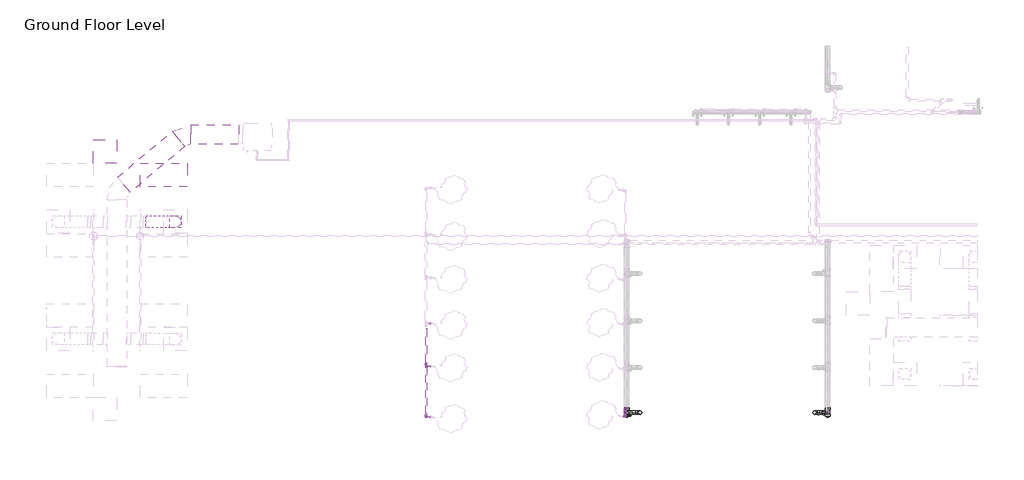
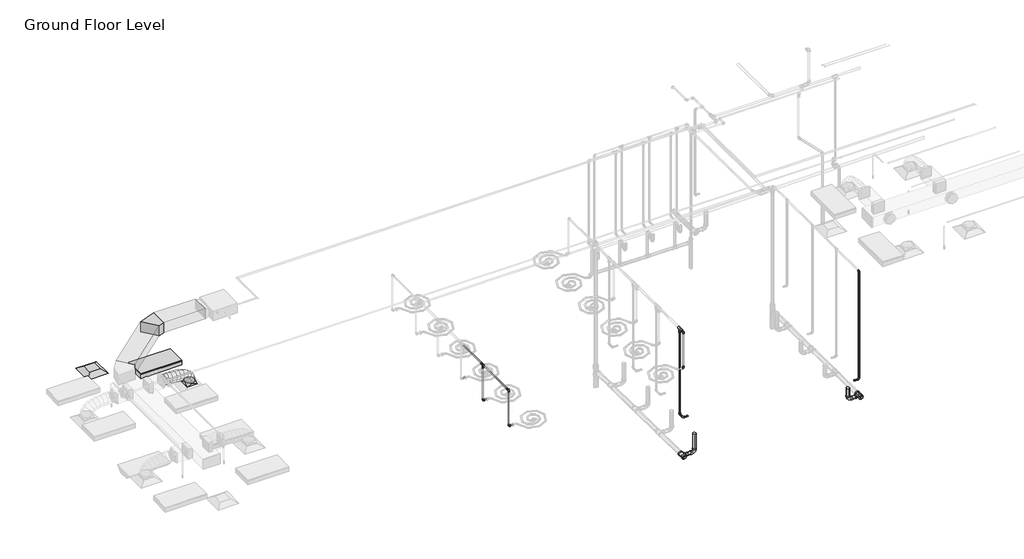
# One storey, part 3 of 74: 22 pipe fittings, 19 pipe segments, 3 duct segments, 2 duct fittings, 1 air terminal, 1 light fixture.
"""IFC4 building model written with IfcOpenShell, lengths in millimetres."""

from ifc_helpers import new_model, si_unit, point, frame, frame_2d, origin, place, context, project, spatial, polyline, circle_curve, ellipse_curve, trimmed, segment, composite_curve, outline, extrude, transform, mapped, element, save
from ifc_brep_helpers import plane_surface, cylinder_surface, advanced_brep
from components import m_return_diffuser_600_x_600_face_300_x_300_connection_ff221211, m_rectangular_elbow_radius_1_w_e33107ab, m_rectangular_to_round_transition_angle_45_degree_641efff0, m_troffer_light_parabolic_rectangular1_0600x1200mm_4_lamp_86473d4a, m_bend_pvc_sch_40_dwv_standard_a4b99d37, m_plug_pvc_sch_40_dwv_standard_6c40de1c, m_tee_reducing_sanitary_pvc_sch_40_dwv_standard_b49161a9, standard_517a5a8d, standard_bbae78af, standard_c7dcb452, standard_636910a4, standard_e5aa6446, standard_c393d86d, standard_77f9104c

model = new_model("IFC4")

# Units and contexts
model_context = context("Model", 3, world=origin())
ifc_project = project(units=[si_unit("LENGTHUNIT", "METRE", prefix="MILLI")], contexts=[model_context])

# Site, building, storey
site = spatial("IfcSite", under=ifc_project)
building = spatial("IfcBuilding", under=site)
storey = spatial("IfcBuildingStorey", under=building, Name="Ground Floor Level", Elevation=900.0)

# Air terminal
placement = place(None, origin())
m_return_diffuser_600_x_600_face_300_x_300_connection_shape = m_return_diffuser_600_x_600_face_300_x_300_connection_ff221211(model_context)
element("IfcAirTerminal", 1, ObjectType="M_Return Diffuser : 600 x 600 Face 300 x 300 Connection", at=placement, inside=storey, context=model_context, shape_type="MappedRepresentation", body=[
    mapped(m_return_diffuser_600_x_600_face_300_x_300_connection_shape, transform((-19137.2327605, -33864.7846466, 3650.0), x_axis=(1.0, 0.0, 0.0), y_axis=(0.0, 1.0, 0.0), z_axis=(0.0, 0.0, 1.0))),
])

# Duct fittings
m_rectangular_elbow_radius_1_w_shape = m_rectangular_elbow_radius_1_w_e33107ab(model_context)
element("IfcDuctFitting", 2, ObjectType="M_Rectangular Elbow - Radius : 1 W", at=placement, inside=storey, context=model_context, shape_type="MappedRepresentation", body=[
    mapped(m_rectangular_elbow_radius_1_w_shape, transform((-17120.666669, -33430.4628495, 4100.0), x_axis=(-0.9999999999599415, 0.0, -8.950815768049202e-06), y_axis=(-9.547984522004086e-11, -0.999999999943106, 1.0667166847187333e-05), z_axis=(-8.950815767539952e-06, 1.0667166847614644e-05, 0.9999999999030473))),
])
m_rectangular_to_round_transition_angle_45_degree_shape = m_rectangular_to_round_transition_angle_45_degree_641efff0(model_context)
element("IfcDuctFitting", 3, ObjectType="M_Rectangular to Round Transition - Angle : 45 Degree", at=placement, inside=storey, context=model_context, shape_type="MappedRepresentation", body=[
    mapped(m_rectangular_to_round_transition_angle_45_degree_shape, transform((-17337.2327605, -35664.7846466, 3751.6), x_axis=(0.0, 0.0, 1.0), y_axis=(-1.0, 0.0, 0.0), z_axis=(0.0, -1.0, 0.0))),
])

# Duct segments
element("IfcDuctSegment", 4, ObjectType="Flex - Round", at=placement, inside=storey, context=model_context, shape_type="AdvancedBrep", body=[
    advanced_brep(
    [(-17187.2327605, -35664.7846466, 3826.6), (-17337.2327605, -35814.7846466, 3826.6), (-17487.2327605, -35664.7846466, 3826.6), (-17337.2327605, -35514.7846466, 3826.6), (-17187.2327605, -35664.7846466, 3883.5809337), (-17337.2327605, -35814.7846466, 3857.9377114), (-17487.2327605, -35664.7846466, 3832.2944892), (-17337.2327605, -35514.7846466, 3857.9377114), (-17220.5107141, -35664.7846466, 3978.0660967), (-17354.2486931, -35814.7846466, 3906.2505728), (-17487.986672, -35664.7846466, 3834.435049), (-17354.2486931, -35514.7846466, 3906.2505728), (-17297.2266742, -35664.7846466, 4079.6206026), (-17401.4325734, -35814.7846466, 3968.7113131), (-17505.6384727, -35664.7846466, 3857.8020236), (-17401.4325734, -35514.7846466, 3968.7113131), (-17404.05447, -35664.7846466, 4150.3237489), (-17472.9885256, -35814.7846466, 4016.0700639), (-17541.9225812, -35664.7846466, 3881.8163788), (-17472.9885256, -35514.7846466, 4016.0700639), (-17519.5599104, -35664.7846466, 4194.3367758), (-17563.1206736, -35814.7846466, 4050.4146682), (-17606.6814368, -35664.7846466, 3906.4925606), (-17563.1206736, -35514.7846466, 4050.4146682), (-17639.4722174, -35664.7846466, 4221.6234841), (-17666.0331414, -35814.7846466, 4073.8329691), (-17692.5940654, -35664.7846466, 3926.0424542), (-17666.0331414, -35514.7846466, 4073.8329691), (-17760.7791508, -35664.7846466, 4237.7170733), (-17775.9300532, -35814.7846466, 4088.4128097), (-17791.0809555, -35664.7846466, 3939.1085462), (-17775.9300532, -35514.7846466, 4088.4128097), (-17879.5102046, -35664.7846466, 4246.085151), (-17887.0155328, -35814.7846466, 4096.242033), (-17894.520861, -35664.7846466, 3946.398915), (-17887.0155328, -35514.7846466, 4096.242033), (-17990.8022112, -35664.7846466, 4249.394754), (-17993.4937043, -35814.7846466, 4099.4084821), (-17996.1851974, -35664.7846466, 3949.4222102), (-17993.4937043, -35514.7846466, 4099.4084821), (-18088.645184, -35664.7846466, 4249.9971571), (-18089.5686918, -35514.7846466, 4100.0), (-18090.4921996, -35664.7846466, 3950.0028429), (-18089.5686918, -35814.7846466, 4100.0)],
    [
        (0, 1, circle_curve(frame((-17337.2327605, -35664.7846466, 3826.6), z_axis=(0.0, 0.0, -1.0), x_axis=(1.0, 0.0, 0.0)), 150.0)),
        (1, 2, circle_curve(frame((-17337.2327605, -35664.7846466, 3826.6), z_axis=(0.0, 0.0, -1.0), x_axis=(1.0, 0.0, 0.0)), 150.0)),
        (2, 3, circle_curve(frame((-17337.2327605, -35664.7846466, 3826.6), z_axis=(0.0, 0.0, -1.0), x_axis=(1.0, 0.0, 0.0)), 150.0)),
        (3, 0, circle_curve(frame((-17337.2327605, -35664.7846466, 3826.6), z_axis=(0.0, 0.0, -1.0), x_axis=(1.0, 0.0, 0.0)), 150.0)),
        (0, 4),
        (4, 5, ellipse_curve(frame((-17337.2327605, -35664.7846466, 3857.9377114), z_axis=(0.16851014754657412, 0.0, -0.9856999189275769), x_axis=(-0.9856999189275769, 0.0, -0.16851014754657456)), 152.176131, 150.0)),
        (5, 1),
        (5, 6, ellipse_curve(frame((-17337.2327605, -35664.7846466, 3857.9377114), z_axis=(0.16851014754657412, 0.0, -0.9856999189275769), x_axis=(-0.9856999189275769, 0.0, -0.16851014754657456)), 152.176131, 150.0)),
        (6, 2),
        (6, 7, ellipse_curve(frame((-17337.2327605, -35664.7846466, 3857.9377114), z_axis=(0.16851014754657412, 0.0, -0.9856999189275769), x_axis=(-0.9856999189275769, 0.0, -0.16851014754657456)), 152.176131, 150.0)),
        (7, 3),
        (7, 4, ellipse_curve(frame((-17337.2327605, -35664.7846466, 3857.9377114), z_axis=(0.16851014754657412, 0.0, -0.9856999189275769), x_axis=(-0.9856999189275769, 0.0, -0.16851014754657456)), 152.176131, 150.0)),
        (4, 8),
        (8, 9, ellipse_curve(frame((-17354.2486931, -35664.7846466, 3906.2505728), z_axis=(0.47309225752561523, 0.0, -0.881012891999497), x_axis=(-0.8810128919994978, 0.0, -0.4730922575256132)), 151.8002519, 150.0)),
        (9, 5),
        (9, 10, ellipse_curve(frame((-17354.2486931, -35664.7846466, 3906.2505728), z_axis=(0.47309225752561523, 0.0, -0.881012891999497), x_axis=(-0.8810128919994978, 0.0, -0.4730922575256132)), 151.8002519, 150.0)),
        (10, 6),
        (10, 11, ellipse_curve(frame((-17354.2486931, -35664.7846466, 3906.2505728), z_axis=(0.47309225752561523, 0.0, -0.881012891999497), x_axis=(-0.8810128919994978, 0.0, -0.4730922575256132)), 151.8002519, 150.0)),
        (11, 7),
        (11, 8, ellipse_curve(frame((-17354.2486931, -35664.7846466, 3906.2505728), z_axis=(0.47309225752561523, 0.0, -0.881012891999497), x_axis=(-0.8810128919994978, 0.0, -0.4730922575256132)), 151.8002519, 150.0)),
        (8, 12),
        (12, 13, ellipse_curve(frame((-17401.4325734, -35664.7846466, 3968.7113131), z_axis=(0.7287877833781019, 0.0, -0.6847396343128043), x_axis=(-0.6847396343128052, 0.0, -0.728787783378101)), 152.1832446, 150.0)),
        (13, 9),
        (13, 14, ellipse_curve(frame((-17401.4325734, -35664.7846466, 3968.7113131), z_axis=(0.7287877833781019, 0.0, -0.6847396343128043), x_axis=(-0.6847396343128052, 0.0, -0.728787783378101)), 152.1832446, 150.0)),
        (14, 10),
        (14, 15, ellipse_curve(frame((-17401.4325734, -35664.7846466, 3968.7113131), z_axis=(0.7287877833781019, 0.0, -0.6847396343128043), x_axis=(-0.6847396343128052, 0.0, -0.728787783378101)), 152.1832446, 150.0)),
        (15, 11),
        (15, 12, ellipse_curve(frame((-17401.4325734, -35664.7846466, 3968.7113131), z_axis=(0.7287877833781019, 0.0, -0.6847396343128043), x_axis=(-0.6847396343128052, 0.0, -0.728787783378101)), 152.1832446, 150.0)),
        (12, 16),
        (16, 17, ellipse_curve(frame((-17472.9885256, -35664.7846466, 4016.0700639), z_axis=(0.8895859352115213, 0.0, -0.4567678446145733), x_axis=(-0.45676784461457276, 0.0, -0.8895859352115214)), 150.91705, 150.0)),
        (17, 13),
        (17, 18, ellipse_curve(frame((-17472.9885256, -35664.7846466, 4016.0700639), z_axis=(0.8895859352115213, 0.0, -0.4567678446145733), x_axis=(-0.45676784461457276, 0.0, -0.8895859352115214)), 150.91705, 150.0)),
        (18, 14),
        (18, 19, ellipse_curve(frame((-17472.9885256, -35664.7846466, 4016.0700639), z_axis=(0.8895859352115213, 0.0, -0.4567678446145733), x_axis=(-0.45676784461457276, 0.0, -0.8895859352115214)), 150.91705, 150.0)),
        (19, 15),
        (19, 16, ellipse_curve(frame((-17472.9885256, -35664.7846466, 4016.0700639), z_axis=(0.8895859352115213, 0.0, -0.4567678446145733), x_axis=(-0.45676784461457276, 0.0, -0.8895859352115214)), 150.91705, 150.0)),
        (16, 20),
        (20, 21, ellipse_curve(frame((-17563.1206736, -35664.7846466, 4050.4146682), z_axis=(0.9571203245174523, 0.0, -0.2896906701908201), x_axis=(-0.28969067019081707, 0.0, -0.9571203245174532)), 150.369921, 150.0)),
        (21, 17),
        (21, 22, ellipse_curve(frame((-17563.1206736, -35664.7846466, 4050.4146682), z_axis=(0.9571203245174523, 0.0, -0.2896906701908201), x_axis=(-0.28969067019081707, 0.0, -0.9571203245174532)), 150.369921, 150.0)),
        (22, 18),
        (22, 23, ellipse_curve(frame((-17563.1206736, -35664.7846466, 4050.4146682), z_axis=(0.9571203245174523, 0.0, -0.2896906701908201), x_axis=(-0.28969067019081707, 0.0, -0.9571203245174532)), 150.369921, 150.0)),
        (23, 19),
        (23, 20, ellipse_curve(frame((-17563.1206736, -35664.7846466, 4050.4146682), z_axis=(0.9571203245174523, 0.0, -0.2896906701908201), x_axis=(-0.28969067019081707, 0.0, -0.9571203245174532)), 150.369921, 150.0)),
        (20, 24),
        (24, 25, ellipse_curve(frame((-17666.0331414, -35664.7846466, 4073.8329691), z_axis=(0.9842313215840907, 0.0, -0.17688613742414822), x_axis=(-0.17688613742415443, 0.0, -0.9842313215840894)), 150.1583131, 150.0)),
        (25, 21),
        (25, 26, ellipse_curve(frame((-17666.0331414, -35664.7846466, 4073.8329691), z_axis=(0.9842313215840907, 0.0, -0.17688613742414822), x_axis=(-0.17688613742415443, 0.0, -0.9842313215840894)), 150.1583131, 150.0)),
        (26, 22),
        (26, 27, ellipse_curve(frame((-17666.0331414, -35664.7846466, 4073.8329691), z_axis=(0.9842313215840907, 0.0, -0.17688613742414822), x_axis=(-0.17688613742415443, 0.0, -0.9842313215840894)), 150.1583131, 150.0)),
        (27, 23),
        (27, 24, ellipse_curve(frame((-17666.0331414, -35664.7846466, 4073.8329691), z_axis=(0.9842313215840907, 0.0, -0.17688613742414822), x_axis=(-0.17688613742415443, 0.0, -0.9842313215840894)), 150.1583131, 150.0)),
        (24, 28),
        (28, 29, ellipse_curve(frame((-17775.9300532, -35664.7846466, 4088.4128097), z_axis=(0.9948906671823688, 0.0, -0.10095821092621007), x_axis=(-0.1009582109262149, -1.267236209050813e-12, -0.9948906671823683)), 150.0710264, 150.0)),
        (29, 25),
        (29, 30, ellipse_curve(frame((-17775.9300532, -35664.7846466, 4088.4128097), z_axis=(0.9948906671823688, 0.0, -0.10095821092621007), x_axis=(-0.1009582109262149, -1.267236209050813e-12, -0.9948906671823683)), 150.0710264, 150.0)),
        (30, 26),
        (30, 31, ellipse_curve(frame((-17775.9300532, -35664.7846466, 4088.4128097), z_axis=(0.9948906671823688, 0.0, -0.10095821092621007), x_axis=(-0.1009582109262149, -1.267236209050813e-12, -0.9948906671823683)), 150.0710264, 150.0)),
        (31, 27),
        (31, 28, ellipse_curve(frame((-17775.9300532, -35664.7846466, 4088.4128097), z_axis=(0.9948906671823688, 0.0, -0.10095821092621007), x_axis=(-0.1009582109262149, -1.267236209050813e-12, -0.9948906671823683)), 150.0710264, 150.0)),
        (28, 32),
        (32, 33, ellipse_curve(frame((-17887.0155328, -35664.7846466, 4096.242033), z_axis=(0.9987479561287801, 0.0, -0.05002519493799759), x_axis=(-0.05002519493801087, 0.0, -0.9987479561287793)), 150.0309634, 150.0)),
        (33, 29),
        (33, 34, ellipse_curve(frame((-17887.0155328, -35664.7846466, 4096.242033), z_axis=(0.9987479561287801, 0.0, -0.05002519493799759), x_axis=(-0.05002519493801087, 0.0, -0.9987479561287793)), 150.0309634, 150.0)),
        (34, 30),
        (34, 35, ellipse_curve(frame((-17887.0155328, -35664.7846466, 4096.242033), z_axis=(0.9987479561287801, 0.0, -0.05002519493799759), x_axis=(-0.05002519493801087, 0.0, -0.9987479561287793)), 150.0309634, 150.0)),
        (35, 31),
        (35, 32, ellipse_curve(frame((-17887.0155328, -35664.7846466, 4096.242033), z_axis=(0.9987479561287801, 0.0, -0.05002519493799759), x_axis=(-0.05002519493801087, 0.0, -0.9987479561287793)), 150.0309634, 150.0)),
        (32, 36),
        (36, 37, ellipse_curve(frame((-17993.4937043, -35664.7846466, 4099.4084821), z_axis=(0.9998390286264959, 0.0, -0.017942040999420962), x_axis=(-0.017942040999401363, 3.6375791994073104e-12, -0.9998390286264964)), 150.0104193, 150.0)),
        (37, 33),
        (37, 38, ellipse_curve(frame((-17993.4937043, -35664.7846466, 4099.4084821), z_axis=(0.9998390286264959, 0.0, -0.017942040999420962), x_axis=(-0.017942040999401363, 3.6375791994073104e-12, -0.9998390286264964)), 150.0104193, 150.0)),
        (38, 34),
        (38, 39, ellipse_curve(frame((-17993.4937043, -35664.7846466, 4099.4084821), z_axis=(0.9998390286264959, 0.0, -0.017942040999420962), x_axis=(-0.017942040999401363, 3.6375791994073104e-12, -0.9998390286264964)), 150.0104193, 150.0)),
        (39, 35),
        (39, 36, ellipse_curve(frame((-17993.4937043, -35664.7846466, 4099.4084821), z_axis=(0.9998390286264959, 0.0, -0.017942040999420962), x_axis=(-0.017942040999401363, 3.6375791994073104e-12, -0.9998390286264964)), 150.0104193, 150.0)),
        (40, 41, circle_curve(frame((-18089.5686918, -35664.7846466, 4100.0), z_axis=(-0.9999810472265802, 0.0, 0.006156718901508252), x_axis=(0.006156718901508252, 0.0, 0.9999810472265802)), 150.0)),
        (41, 42, circle_curve(frame((-18089.5686918, -35664.7846466, 4100.0), z_axis=(-0.9999810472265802, 0.0, 0.006156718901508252), x_axis=(0.006156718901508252, 0.0, 0.9999810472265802)), 150.0)),
        (42, 43, circle_curve(frame((-18089.5686918, -35664.7846466, 4100.0), z_axis=(-0.9999810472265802, 0.0, 0.006156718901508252), x_axis=(0.006156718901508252, 0.0, 0.9999810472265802)), 150.0)),
        (43, 40, circle_curve(frame((-18089.5686918, -35664.7846466, 4100.0), z_axis=(-0.9999810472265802, 0.0, 0.006156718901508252), x_axis=(0.006156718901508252, 0.0, 0.9999810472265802)), 150.0)),
        (36, 40),
        (43, 37),
        (42, 38),
        (41, 39),
    ],
    [
        plane_surface(frame((-17337.2327605, -35814.7846466, 3826.6), z_axis=(0.0, 0.0, -1.0), x_axis=(1.0, 0.0, 0.0))),
        cylinder_surface(frame((-17337.2327605, -35664.7846466, 3826.6), z_axis=(0.0, 0.0, -1.0), x_axis=(1.0, 0.0, 0.0)), 150.0),
        cylinder_surface(frame((-17337.2327605, -35664.7846466, 3857.9377114), z_axis=(0.3322008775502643, 0.0, -0.9432086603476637), x_axis=(0.9432086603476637, 0.0, 0.3322008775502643)), 150.0),
        cylinder_surface(frame((-17354.2486931, -35664.7846466, 3906.2505728), z_axis=(0.6027625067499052, 0.0, -0.7979206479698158), x_axis=(0.7979206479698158, 0.0, 0.6027625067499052)), 150.0),
        cylinder_surface(frame((-17401.4325734, -35664.7846466, 3968.7113131), z_axis=(0.8339024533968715, 0.0, -0.5519118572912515), x_axis=(0.5519118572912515, 0.0, 0.8339024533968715)), 150.0),
        cylinder_surface(frame((-17472.9885256, -35664.7846466, 4016.0700639), z_axis=(0.9344582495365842, 0.0, -0.3560727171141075), x_axis=(0.3560727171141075, 0.0, 0.9344582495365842)), 150.0),
        cylinder_surface(frame((-17563.1206736, -35664.7846466, 4050.4146682), z_axis=(0.9750732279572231, 0.0, -0.22188330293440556), x_axis=(0.22188330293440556, 0.0, 0.9750732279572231)), 150.0),
        cylinder_surface(frame((-17666.0331414, -35664.7846466, 4073.8329691), z_axis=(0.9913140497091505, 0.0, -0.13151598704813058), x_axis=(0.13151598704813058, 0.0, 0.9913140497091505)), 150.0),
        cylinder_surface(frame((-17775.9300532, -35664.7846466, 4088.4128097), z_axis=(0.9975255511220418, 0.0, -0.07030487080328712), x_axis=(0.07030487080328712, 0.0, 0.9975255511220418)), 150.0),
        cylinder_surface(frame((-17887.0155328, -35664.7846466, 4096.242033), z_axis=(0.9995581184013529, 0.0, -0.029724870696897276), x_axis=(0.029724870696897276, 0.0, 0.9995581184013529)), 150.0),
        plane_surface(frame((-18089.5686918, -35814.7846466, 4100.0), z_axis=(-0.9999810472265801, 0.0, 0.00615671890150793), x_axis=(0.00615671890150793, 7.318590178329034e-12, 0.9999810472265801))),
        cylinder_surface(frame((-17993.4937043, -35664.7846466, 4099.4084821), z_axis=(0.9999810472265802, 0.0, -0.006156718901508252), x_axis=(0.006156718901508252, 0.0, 0.9999810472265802)), 150.0),
    ],
    [
        (0, [[1, 2, 3, 4]]),
        (1, [[-1, 5, 6, 7]]),
        (1, [[-2, -7, 8, 9]]),
        (1, [[-3, -9, 10, 11]]),
        (1, [[-4, -11, 12, -5]]),
        (2, [[-6, 13, 14, 15]]),
        (2, [[-8, -15, 16, 17]]),
        (2, [[-10, -17, 18, 19]]),
        (2, [[-12, -19, 20, -13]]),
        (3, [[-14, 21, 22, 23]]),
        (3, [[-16, -23, 24, 25]]),
        (3, [[-18, -25, 26, 27]]),
        (3, [[-20, -27, 28, -21]]),
        (4, [[-22, 29, 30, 31]]),
        (4, [[-24, -31, 32, 33]]),
        (4, [[-26, -33, 34, 35]]),
        (4, [[-28, -35, 36, -29]]),
        (5, [[-30, 37, 38, 39]]),
        (5, [[-32, -39, 40, 41]]),
        (5, [[-34, -41, 42, 43]]),
        (5, [[-36, -43, 44, -37]]),
        (6, [[-38, 45, 46, 47]]),
        (6, [[-40, -47, 48, 49]]),
        (6, [[-42, -49, 50, 51]]),
        (6, [[-44, -51, 52, -45]]),
        (7, [[-46, 53, 54, 55]]),
        (7, [[-48, -55, 56, 57]]),
        (7, [[-50, -57, 58, 59]]),
        (7, [[-52, -59, 60, -53]]),
        (8, [[-54, 61, 62, 63]]),
        (8, [[-56, -63, 64, 65]]),
        (8, [[-58, -65, 66, 67]]),
        (8, [[-60, -67, 68, -61]]),
        (9, [[-62, 69, 70, 71]]),
        (9, [[-64, -71, 72, 73]]),
        (9, [[-66, -73, 74, 75]]),
        (9, [[-68, -75, 76, -69]]),
        (10, [[77, 78, 79, 80]]),
        (11, [[-70, 81, -80, 82]]),
        (11, [[-72, -82, -79, 83]]),
        (11, [[-74, -83, -78, 84]]),
        (11, [[-76, -84, -77, -81]]),
    ],
),
])
element("IfcDuctSegment", 5, ObjectType="Radius Elbows / Taps", at=placement, inside=storey, context=model_context, shape_type="SweptSolid", body=[
    extrude(outline(polyline([(-15712.2265072, -33180.4628495), (-15712.2265072, -33680.4628495), (-16938.6815519, -33680.4628495), (-16938.6815519, -33180.4628495), (-15712.2265072, -33180.4628495)])), frame((0.0, 0.0, 3950.0016289), z_axis=(0.0, 0.0, 1.0), x_axis=(1.0, 0.0, 0.0)), (0.0, 0.0, 1.0), 300.0),
])
element("IfcDuctSegment", 6, ObjectType="Radius Elbows / Taps", at=placement, inside=storey, context=model_context, shape_type="SweptSolid", body=[
    extrude(outline(polyline([(-17420.7722592, -33355.9295172), (-17099.3784543, -33738.9517387), (-18494.7419556, -34909.800738), (-18816.1357605, -34526.7785165), (-17420.7722592, -33355.9295172)])), frame((0.0, 0.0, 3950.0), z_axis=(0.0, 0.0, 1.0), x_axis=(1.0, 0.0, 0.0)), (0.0, 0.0, 1.0), 300.0),
])

# Light fixture
m_troffer_light_parabolic_rectangular1_0600x1200mm_4_lamp_shape = m_troffer_light_parabolic_rectangular1_0600x1200mm_4_lamp_86473d4a(model_context)
element("IfcLightFixture", 7, ObjectType="M_Troffer Light - Parabolic Rectangular1 : 0600x1200mm(4 Lamp) - 277V 2", at=placement, inside=storey, context=model_context, shape_type="MappedRepresentation", body=[
    mapped(m_troffer_light_parabolic_rectangular1_0600x1200mm_4_lamp_shape, transform((-17618.5292589, -34411.6319125, 3650.0), x_axis=(1.0, 0.0, 0.0), y_axis=(0.0, 1.0, 0.0), z_axis=(0.0, 0.0, 1.0))),
])

# Pipe fittings
m_bend_pvc_sch_40_dwv_standard_shape = m_bend_pvc_sch_40_dwv_standard_a4b99d37(model_context)
element("IfcPipeFitting", 8, ObjectType="M_Bend - PVC - Sch 40 - DWV : Standard", at=placement, inside=storey, context=model_context, shape_type="MappedRepresentation", body=[
    mapped(m_bend_pvc_sch_40_dwv_standard_shape, transform((-968.6302333, -40554.7846466, 474.636445), x_axis=(0.0, 0.0, -1.0), y_axis=(1.0, 0.0, 0.0), z_axis=(0.0, -1.0, 0.0))),
])
element("IfcPipeFitting", 9, ObjectType="M_Bend - PVC - Sch 40 - DWV : Standard", at=placement, inside=storey, context=model_context, shape_type="MappedRepresentation", body=[
    mapped(m_bend_pvc_sch_40_dwv_standard_shape, transform((-5437.0260633, -40554.7846466, 426.7547439), x_axis=(0.0, 0.0, -1.0), y_axis=(-1.0, 0.0, 0.0), z_axis=(0.0, 1.0, 0.0))),
])
m_plug_pvc_sch_40_dwv_standard_shape = m_plug_pvc_sch_40_dwv_standard_6c40de1c(model_context)
element("IfcPipeFitting", 10, ObjectType="M_Plug - PVC - Sch 40 - DWV : Standard", at=placement, inside=storey, context=model_context, shape_type="MappedRepresentation", body=[
    mapped(m_plug_pvc_sch_40_dwv_standard_shape, transform((-633.5600391, -40643.6787021, 475.6753855), x_axis=(0.0, -0.9999500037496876, 0.00999950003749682), y_axis=(1.0, 0.0, 0.0), z_axis=(0.0, 0.00999950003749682, 0.9999500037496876))),
])
element("IfcPipeFitting", 11, ObjectType="M_Plug - PVC - Sch 40 - DWV : Standard", at=placement, inside=storey, context=model_context, shape_type="MappedRepresentation", body=[
    mapped(m_plug_pvc_sch_40_dwv_standard_shape, transform((-5783.0674798, -40643.6787021, 427.7936845), x_axis=(0.0, -0.9999500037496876, 0.009999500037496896), y_axis=(1.0, 0.0, 0.0), z_axis=(0.0, 0.009999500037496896, 0.9999500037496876))),
])
m_tee_reducing_sanitary_pvc_sch_40_dwv_standard_shape = m_tee_reducing_sanitary_pvc_sch_40_dwv_standard_b49161a9(model_context)
element("IfcPipeFitting", 12, ObjectType="M_Tee Reducing Sanitary - PVC - Sch 40 - DWV : Standard", at=placement, inside=storey, context=model_context, shape_type="MappedRepresentation", body=[
    mapped(m_tee_reducing_sanitary_pvc_sch_40_dwv_standard_shape, transform((-633.5600391, -40554.7831468, 474.78643), x_axis=(0.0, -0.9999500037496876, 0.00999950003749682), y_axis=(1.0, 0.0, 0.0), z_axis=(0.0, 0.00999950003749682, 0.9999500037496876))),
])
element("IfcPipeFitting", 13, ObjectType="M_Tee Reducing Sanitary - PVC - Sch 40 - DWV : Standard", at=placement, inside=storey, context=model_context, shape_type="MappedRepresentation", body=[
    mapped(m_tee_reducing_sanitary_pvc_sch_40_dwv_standard_shape, transform((-5783.0674798, -40554.7831468, 426.9047289), x_axis=(0.0, -0.9999500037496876, 0.009999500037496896), y_axis=(-1.0, 0.0, 0.0), z_axis=(0.0, -0.009999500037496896, -0.9999500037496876))),
])
standard_shape = standard_517a5a8d(model_context)
element("IfcPipeFitting", 14, ObjectType="M_Elbow - CPVC - Sch 40 : Standard", at=placement, inside=storey, context=model_context, shape_type="MappedRepresentation", body=[
    mapped(standard_shape, transform((-639.6485359, -40554.7846466, 4300.0), x_axis=(0.0, -1.0, 0.0), y_axis=(0.0, 0.0, -1.0), z_axis=(1.0, 0.0, 0.0))),
])
element("IfcPipeFitting", 15, ObjectType="M_Elbow - CPVC - Sch 40 : Standard", at=placement, inside=storey, context=model_context, shape_type="MappedRepresentation", body=[
    mapped(standard_shape, transform((-5815.4900472, -40654.7846466, 3200.0), x_axis=(0.0, 0.0, -1.0), y_axis=(-1.0, 0.0, 0.0), z_axis=(0.0, 1.0, 0.0))),
])
element("IfcPipeFitting", 16, ObjectType="M_Elbow - CPVC - Sch 40 : Standard", at=placement, inside=storey, context=model_context, shape_type="MappedRepresentation", body=[
    mapped(standard_shape, transform((-5815.4900472, -40468.2234128, 1655.0), x_axis=(0.0, 1.0, 0.0), y_axis=(0.0, 0.0, 1.0), z_axis=(1.0, 0.0, 0.0))),
])
element("IfcPipeFitting", 17, ObjectType="M_Elbow - CPVC - Sch 40 : Standard", at=placement, inside=storey, context=model_context, shape_type="MappedRepresentation", body=[
    mapped(standard_shape, transform((-5815.4900472, -40654.7846466, 4300.0), x_axis=(0.0, -1.0, 0.0), y_axis=(0.0, 0.0, -1.0), z_axis=(1.0, 0.0, 0.0))),
])
element("IfcPipeFitting", 18, ObjectType="M_Elbow - CPVC - Sch 40 : Standard", at=placement, inside=storey, context=model_context, shape_type="MappedRepresentation", body=[
    mapped(standard_shape, transform((-10915.1539972, -40669.7846466, 3200.0), x_axis=(0.0, 0.0, -1.0), y_axis=(1.0, 0.0, 0.0), z_axis=(0.0, -1.0, 0.0))),
])
element("IfcPipeFitting", 19, ObjectType="M_Elbow - CPVC - Sch 40 : Standard", at=placement, inside=storey, context=model_context, shape_type="MappedRepresentation", body=[
    mapped(standard_shape, transform((-10915.1539972, -40669.7846466, 4300.0), x_axis=(0.0, -1.0, 0.0), y_axis=(0.0, 0.0, -1.0), z_axis=(1.0, 0.0, 0.0))),
])
element("IfcPipeFitting", 20, ObjectType="M_Elbow - CPVC - Sch 40 : Standard", at=placement, inside=storey, context=model_context, shape_type="MappedRepresentation", body=[
    mapped(standard_shape, transform((-10915.1539972, -39369.7846466, 3200.0), x_axis=(0.0, 0.0, -1.0), y_axis=(1.0, 0.0, 0.0), z_axis=(0.0, -1.0, 0.0))),
])
element("IfcPipeFitting", 21, ObjectType="M_Elbow - CPVC - Sch 40 : Standard", at=placement, inside=storey, context=model_context, shape_type="MappedRepresentation", body=[
    mapped(standard_shape, transform((-5815.4900472, -40628.2234128, 1655.0), x_axis=(0.0, -1.0, 0.0), y_axis=(1.0, 0.0, 0.0), z_axis=(0.0, 0.0, 1.0))),
])
standard_2_shape = standard_bbae78af(model_context)
element("IfcPipeFitting", 22, ObjectType="M_Tee - CPVC - Sch 40 : Standard", at=placement, inside=storey, context=model_context, shape_type="MappedRepresentation", body=[
    mapped(standard_2_shape, transform((-5815.4900472, -40468.2234128, 4300.0), x_axis=(0.0, 1.0, 0.0), y_axis=(0.0, 0.0, 1.0), z_axis=(1.0, 0.0, 0.0))),
])
standard_3_shape = standard_c7dcb452(model_context)
element("IfcPipeFitting", 23, ObjectType="M_Coupling Reducing - CPVC - Sch 40 : Standard", at=placement, inside=storey, context=model_context, shape_type="MappedRepresentation", body=[
    mapped(standard_3_shape, transform((-10915.1539972, -39337.2472466, 4300.0), x_axis=(0.0, 1.0, 0.0), y_axis=(-1.0, 0.0, 0.0), z_axis=(0.0, 0.0, 1.0))),
])
element("IfcPipeFitting", 24, ObjectType="M_Coupling Reducing - CPVC - Sch 40 : Standard", at=placement, inside=storey, context=model_context, shape_type="MappedRepresentation", body=[
    mapped(standard_3_shape, transform((-10915.1539972, -39369.7846466, 4267.4626), x_axis=(0.0, 0.0, -1.0), y_axis=(0.0, 1.0, 0.0), z_axis=(1.0, 0.0, 0.0))),
])
standard_4_shape = standard_636910a4(model_context)
element("IfcPipeFitting", 25, ObjectType="M_Tee - CPVC - Sch 40 : Standard", at=placement, inside=storey, context=model_context, shape_type="MappedRepresentation", body=[
    mapped(standard_4_shape, transform((-10915.1539972, -39369.7846466, 4300.0), x_axis=(0.0, -1.0, 0.0), y_axis=(0.0, 0.0, 1.0), z_axis=(-1.0, 0.0, 0.0))),
])
standard_5_shape = standard_e5aa6446(model_context)
element("IfcPipeFitting", 26, ObjectType="M_Coupling Reducing - CPVC - Sch 40 : Standard", at=placement, inside=storey, context=model_context, shape_type="MappedRepresentation", body=[
    mapped(standard_5_shape, transform((-10915.1539972, -40626.5220966, 4300.0), x_axis=(0.0, 1.0, 0.0), y_axis=(-1.0, 0.0, 0.0), z_axis=(0.0, 0.0, 1.0))),
])
standard_6_shape = standard_c393d86d(model_context)
element("IfcPipeFitting", 27, ObjectType="M_Elbow - CPVC - Sch 40 : Standard", at=placement, inside=storey, context=model_context, shape_type="MappedRepresentation", body=[
    mapped(standard_6_shape, transform((-639.6485359, -40554.7846466, 983.5), x_axis=(0.0, 0.0, -1.0), y_axis=(-1.0, 0.0, 0.0), z_axis=(0.0, 1.0, 0.0))),
])
standard_7_shape = standard_77f9104c(model_context)
element("IfcPipeFitting", 28, ObjectType="M_Coupling Reducing - CPVC - Sch 40 : Standard", at=placement, inside=storey, context=model_context, shape_type="MappedRepresentation", body=[
    mapped(standard_7_shape, transform((-5815.4900472, -40468.2234128, 4241.2498), x_axis=(0.0, 0.0, -1.0), y_axis=(0.0, -1.0, 0.0), z_axis=(-1.0, 0.0, 0.0))),
])
element("IfcPipeFitting", 29, ObjectType="M_Coupling Reducing - CPVC - Sch 40 : Standard", at=placement, inside=storey, context=model_context, shape_type="MappedRepresentation", body=[
    mapped(standard_7_shape, transform((-5815.4900472, -40539.3232216, 4300.0), x_axis=(0.0, -1.0, 0.0), y_axis=(1.0, 0.0, 0.0), z_axis=(0.0, 0.0, 1.0))),
])

# Pipe segments
element("IfcPipeSegment", 30, ObjectType="CPVC", at=placement, inside=storey, context=model_context, shape_type="SweptSolid", body=[
    extrude(outline(composite_curve([segment(trimmed(circle_curve(frame_2d((-40554.7846466, 983.4999935)), 16.7005), [point((-40538.0841466, 983.4999935))], [point((-40554.7846466, 966.7994935))], False, "CARTESIAN"), True, "CONTINUOUS"), segment(trimmed(circle_curve(frame_2d((-40554.7846466, 983.4999935)), 16.7005), [point((-40554.7846466, 966.7994935))], [point((-40571.4851466, 983.4999935))], False, "CARTESIAN"), True, "CONTINUOUS"), segment(trimmed(circle_curve(frame_2d((-40554.7846466, 983.4999935)), 16.7005), [point((-40571.4851466, 983.4999935))], [point((-40554.7846466, 1000.2004935))], False, "CARTESIAN"), True, "CONTINUOUS"), segment(trimmed(circle_curve(frame_2d((-40554.7846466, 983.4999935)), 16.7005), [point((-40554.7846466, 1000.2004935))], [point((-40538.0841466, 983.4999935))], False, "CARTESIAN"), True, "CONTINUOUS")], self_intersect=False)), frame((-782.4615578, 0.0, 0.0), z_axis=(1.0, 0.0, 0.0), x_axis=(0.0, 1.0, 0.0)), (0.0, 0.0, 1.0), 99.550475),
])
element("IfcPipeSegment", 31, ObjectType="CPVC", at=placement, inside=storey, context=model_context, shape_type="SweptSolid", body=[
    extrude(outline(composite_curve([segment(trimmed(circle_curve(frame_2d((-639.6485359, -40554.7846466)), 16.7005), [point((-622.9480359, -40554.7846466))], [point((-639.6485359, -40571.4851466))], False, "CARTESIAN"), True, "CONTINUOUS"), segment(trimmed(circle_curve(frame_2d((-639.6485359, -40554.7846466)), 16.7005), [point((-639.6485359, -40571.4851466))], [point((-656.3490359, -40554.7846466))], False, "CARTESIAN"), True, "CONTINUOUS"), segment(trimmed(circle_curve(frame_2d((-639.6485359, -40554.7846466)), 16.7005), [point((-656.3490359, -40554.7846466))], [point((-639.6485359, -40538.0841466))], False, "CARTESIAN"), True, "CONTINUOUS"), segment(trimmed(circle_curve(frame_2d((-639.6485359, -40554.7846466)), 16.7005), [point((-639.6485359, -40538.0841466))], [point((-622.9480359, -40554.7846466))], False, "CARTESIAN"), True, "CONTINUOUS")], self_intersect=False)), frame((0.0, 0.0, 1026.7625468), z_axis=(0.0, 0.0, 1.0), x_axis=(1.0, 0.0, 0.0)), (0.0, 0.0, 1.0), 3229.9749032),
])
element("IfcPipeSegment", 32, ObjectType="CPVC", at=placement, inside=storey, context=model_context, shape_type="SweptSolid", body=[
    extrude(outline(composite_curve([segment(trimmed(circle_curve(frame_2d((-40654.7846466, 3200.0)), 16.7005), [point((-40671.4851466, 3200.0))], [point((-40654.7846466, 3216.7005))], False, "CARTESIAN"), True, "CONTINUOUS"), segment(trimmed(circle_curve(frame_2d((-40654.7846466, 3200.0)), 16.7005), [point((-40654.7846466, 3216.7005))], [point((-40638.0841466, 3200.0))], False, "CARTESIAN"), True, "CONTINUOUS"), segment(trimmed(circle_curve(frame_2d((-40654.7846466, 3200.0)), 16.7005), [point((-40638.0841466, 3200.0))], [point((-40654.7846466, 3183.2995))], False, "CARTESIAN"), True, "CONTINUOUS"), segment(trimmed(circle_curve(frame_2d((-40654.7846466, 3200.0)), 16.7005), [point((-40654.7846466, 3183.2995))], [point((-40671.4851466, 3200.0))], False, "CARTESIAN"), True, "CONTINUOUS")], self_intersect=False)), frame((-5868.9493142, 0.0, 0.0), z_axis=(1.0, 0.0, 0.0), x_axis=(0.0, 1.0, 0.0)), (0.0, 0.0, 1.0), 10.1967171),
])
element("IfcPipeSegment", 33, ObjectType="CPVC", at=placement, inside=storey, context=model_context, shape_type="SweptSolid", body=[
    extrude(outline(composite_curve([segment(trimmed(circle_curve(frame_2d((-5815.4900472, -40654.7846466)), 16.7005), [point((-5798.7895472, -40654.7846466))], [point((-5815.4900472, -40671.4851466))], False, "CARTESIAN"), True, "CONTINUOUS"), segment(trimmed(circle_curve(frame_2d((-5815.4900472, -40654.7846466)), 16.7005), [point((-5815.4900472, -40671.4851466))], [point((-5832.1905472, -40654.7846466))], False, "CARTESIAN"), True, "CONTINUOUS"), segment(trimmed(circle_curve(frame_2d((-5815.4900472, -40654.7846466)), 16.7005), [point((-5832.1905472, -40654.7846466))], [point((-5815.4900472, -40638.0841466))], False, "CARTESIAN"), True, "CONTINUOUS"), segment(trimmed(circle_curve(frame_2d((-5815.4900472, -40654.7846466)), 16.7005), [point((-5815.4900472, -40638.0841466))], [point((-5798.7895472, -40654.7846466))], False, "CARTESIAN"), True, "CONTINUOUS")], self_intersect=False)), frame((0.0, 0.0, 3243.26255), z_axis=(0.0, 0.0, 1.0), x_axis=(1.0, 0.0, 0.0)), (0.0, 0.0, 1.0), 1013.4749),
])
element("IfcPipeSegment", 34, ObjectType="CPVC", at=placement, inside=storey, context=model_context, shape_type="SweptSolid", body=[
    extrude(outline(composite_curve([segment(trimmed(circle_curve(frame_2d((0.0, -24.13)), 24.13), [point((0.0, 0.0))], [point((24.13, -24.13))], False, "CARTESIAN"), True, "CONTINUOUS"), segment(trimmed(circle_curve(frame_2d((0.0, -24.13)), 24.13), [point((24.13, -24.13))], [point((0.0, -48.26))], False, "CARTESIAN"), True, "CONTINUOUS"), segment(trimmed(circle_curve(frame_2d((0.0, -24.13)), 24.13), [point((0.0, -48.26))], [point((-24.13, -24.13))], False, "CARTESIAN"), True, "CONTINUOUS"), segment(trimmed(circle_curve(frame_2d((0.0, -24.13)), 24.13), [point((-24.13, -24.13))], [point((0.0, 0.0))], False, "CARTESIAN"), True, "CONTINUOUS")], self_intersect=False)), frame((-5839.6200472, -40539.3232216, 4300.0), z_axis=(1.79505533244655e-12, 1.0, 0.0), x_axis=(0.0, 0.0, -1.0)), (0.0, 0.0, 1.0), 12.3496088),
])
element("IfcPipeSegment", 35, ObjectType="CPVC", at=placement, inside=storey, context=model_context, shape_type="SweptSolid", body=[
    extrude(outline(composite_curve([segment(trimmed(circle_curve(frame_2d((-40628.2234128, 1655.0)), 16.7005), [point((-40644.9239128, 1655.0))], [point((-40628.2234128, 1671.7005))], False, "CARTESIAN"), True, "CONTINUOUS"), segment(trimmed(circle_curve(frame_2d((-40628.2234128, 1655.0)), 16.7005), [point((-40628.2234128, 1671.7005))], [point((-40611.5229128, 1655.0))], False, "CARTESIAN"), True, "CONTINUOUS"), segment(trimmed(circle_curve(frame_2d((-40628.2234128, 1655.0)), 16.7005), [point((-40611.5229128, 1655.0))], [point((-40628.2234128, 1638.2995))], False, "CARTESIAN"), True, "CONTINUOUS"), segment(trimmed(circle_curve(frame_2d((-40628.2234128, 1655.0)), 16.7005), [point((-40628.2234128, 1638.2995))], [point((-40644.9239128, 1655.0))], False, "CARTESIAN"), True, "CONTINUOUS")], self_intersect=False)), frame((-5772.2274972, 0.0, 0.0), z_axis=(1.0, 0.0, 0.0), x_axis=(0.0, 1.0, 0.0)), (0.0, 0.0, 1.0), 101.6587367),
])
element("IfcPipeSegment", 36, ObjectType="CPVC", at=placement, inside=storey, context=model_context, shape_type="SweptSolid", body=[
    extrude(outline(composite_curve([segment(trimmed(circle_curve(frame_2d((1655.0, -5815.4900472)), 16.7005), [point((1655.0, -5798.7895472))], [point((1671.7005, -5815.4900472))], False, "CARTESIAN"), True, "CONTINUOUS"), segment(trimmed(circle_curve(frame_2d((1655.0, -5815.4900472)), 16.7005), [point((1671.7005, -5815.4900472))], [point((1655.0, -5832.1905472))], False, "CARTESIAN"), True, "CONTINUOUS"), segment(trimmed(circle_curve(frame_2d((1655.0, -5815.4900472)), 16.7005), [point((1655.0, -5832.1905472))], [point((1638.2995, -5815.4900472))], False, "CARTESIAN"), True, "CONTINUOUS"), segment(trimmed(circle_curve(frame_2d((1655.0, -5815.4900472)), 16.7005), [point((1638.2995, -5815.4900472))], [point((1655.0, -5798.7895472))], False, "CARTESIAN"), True, "CONTINUOUS")], self_intersect=False)), frame((0.0, -40584.9608628, 0.0), z_axis=(0.0, 1.0, 0.0), x_axis=(0.0, 0.0, 1.0)), (0.0, 0.0, 1.0), 73.4749),
])
element("IfcPipeSegment", 37, ObjectType="CPVC", at=placement, inside=storey, context=model_context, shape_type="SweptSolid", body=[
    extrude(outline(composite_curve([segment(trimmed(circle_curve(frame_2d((-5815.4900472, -40468.2234128)), 16.7005), [point((-5798.7895472, -40468.2234128))], [point((-5815.4900472, -40484.9239128))], False, "CARTESIAN"), True, "CONTINUOUS"), segment(trimmed(circle_curve(frame_2d((-5815.4900472, -40468.2234128)), 16.7005), [point((-5815.4900472, -40484.9239128))], [point((-5832.1905472, -40468.2234128))], False, "CARTESIAN"), True, "CONTINUOUS"), segment(trimmed(circle_curve(frame_2d((-5815.4900472, -40468.2234128)), 16.7005), [point((-5832.1905472, -40468.2234128))], [point((-5815.4900472, -40451.5229128))], False, "CARTESIAN"), True, "CONTINUOUS"), segment(trimmed(circle_curve(frame_2d((-5815.4900472, -40468.2234128)), 16.7005), [point((-5815.4900472, -40451.5229128))], [point((-5798.7895472, -40468.2234128))], False, "CARTESIAN"), True, "CONTINUOUS")], self_intersect=False)), frame((0.0, 0.0, 1698.26255), z_axis=(0.0, 0.0, 1.0), x_axis=(1.0, 0.0, 0.0)), (0.0, 0.0, 1.0), 2470.788375),
])
element("IfcPipeSegment", 38, ObjectType="CPVC", at=placement, inside=storey, context=model_context, shape_type="SweptSolid", body=[
    extrude(outline(composite_curve([segment(trimmed(circle_curve(frame_2d((-40669.7846466, 3200.0)), 16.7005), [point((-40686.4851466, 3200.0))], [point((-40669.7846466, 3216.7005))], False, "CARTESIAN"), True, "CONTINUOUS"), segment(trimmed(circle_curve(frame_2d((-40669.7846466, 3200.0)), 16.7005), [point((-40669.7846466, 3216.7005))], [point((-40653.0841466, 3200.0))], False, "CARTESIAN"), True, "CONTINUOUS"), segment(trimmed(circle_curve(frame_2d((-40669.7846466, 3200.0)), 16.7005), [point((-40653.0841466, 3200.0))], [point((-40669.7846466, 3183.2995))], False, "CARTESIAN"), True, "CONTINUOUS"), segment(trimmed(circle_curve(frame_2d((-40669.7846466, 3200.0)), 16.7005), [point((-40669.7846466, 3183.2995))], [point((-40686.4851466, 3200.0))], False, "CARTESIAN"), True, "CONTINUOUS")], self_intersect=False)), frame((-10871.8914472, 0.0, 0.0), z_axis=(1.0, 0.0, 0.0), x_axis=(0.0, 1.0, 0.0)), (0.0, 0.0, 1.0), 66.3712404),
])
element("IfcPipeSegment", 39, ObjectType="CPVC", at=placement, inside=storey, context=model_context, shape_type="SweptSolid", body=[
    extrude(outline(composite_curve([segment(trimmed(circle_curve(frame_2d((-10915.1539972, -40669.7846466)), 16.7005), [point((-10898.4534972, -40669.7846466))], [point((-10915.1539972, -40686.4851466))], False, "CARTESIAN"), True, "CONTINUOUS"), segment(trimmed(circle_curve(frame_2d((-10915.1539972, -40669.7846466)), 16.7005), [point((-10915.1539972, -40686.4851466))], [point((-10931.8544972, -40669.7846466))], False, "CARTESIAN"), True, "CONTINUOUS"), segment(trimmed(circle_curve(frame_2d((-10915.1539972, -40669.7846466)), 16.7005), [point((-10931.8544972, -40669.7846466))], [point((-10915.1539972, -40653.0841466))], False, "CARTESIAN"), True, "CONTINUOUS"), segment(trimmed(circle_curve(frame_2d((-10915.1539972, -40669.7846466)), 16.7005), [point((-10915.1539972, -40653.0841466))], [point((-10898.4534972, -40669.7846466))], False, "CARTESIAN"), True, "CONTINUOUS")], self_intersect=False)), frame((0.0, 0.0, 3243.26255), z_axis=(0.0, 0.0, 1.0), x_axis=(1.0, 0.0, 0.0)), (0.0, 0.0, 1.0), 1013.4749),
])
element("IfcPipeSegment", 40, ObjectType="CPVC", at=placement, inside=storey, context=model_context, shape_type="SweptSolid", body=[
    extrude(outline(composite_curve([segment(trimmed(circle_curve(frame_2d((4300.0, -10915.1539972)), 13.335), [point((4300.0, -10928.4889972))], [point((4286.665, -10915.1539972))], False, "CARTESIAN"), True, "CONTINUOUS"), segment(trimmed(circle_curve(frame_2d((4300.0, -10915.1539972)), 13.335), [point((4286.665, -10915.1539972))], [point((4300.0, -10901.8189972))], False, "CARTESIAN"), True, "CONTINUOUS"), segment(trimmed(circle_curve(frame_2d((4300.0, -10915.1539972)), 13.335), [point((4300.0, -10901.8189972))], [point((4313.335, -10915.1539972))], False, "CARTESIAN"), True, "CONTINUOUS"), segment(trimmed(circle_curve(frame_2d((4300.0, -10915.1539972)), 13.335), [point((4313.335, -10915.1539972))], [point((4300.0, -10928.4889972))], False, "CARTESIAN"), True, "CONTINUOUS")], self_intersect=False)), frame((0.0, -40569.3720966, 0.0), z_axis=(0.0, 1.0, 0.0), x_axis=(0.0, 0.0, 1.0)), (0.0, 0.0, 1.0), 1167.05005),
])
element("IfcPipeSegment", 41, ObjectType="CPVC", at=placement, inside=storey, context=model_context, shape_type="SweptSolid", body=[
    extrude(outline(composite_curve([segment(trimmed(circle_curve(frame_2d((-39369.7846466, 3200.0)), 16.7005), [point((-39353.0841466, 3200.0))], [point((-39369.7846466, 3183.2995))], False, "CARTESIAN"), True, "CONTINUOUS"), segment(trimmed(circle_curve(frame_2d((-39369.7846466, 3200.0)), 16.7005), [point((-39369.7846466, 3183.2995))], [point((-39386.4851466, 3200.0))], False, "CARTESIAN"), True, "CONTINUOUS"), segment(trimmed(circle_curve(frame_2d((-39369.7846466, 3200.0)), 16.7005), [point((-39386.4851466, 3200.0))], [point((-39369.7846466, 3216.7005))], False, "CARTESIAN"), True, "CONTINUOUS"), segment(trimmed(circle_curve(frame_2d((-39369.7846466, 3200.0)), 16.7005), [point((-39369.7846466, 3216.7005))], [point((-39353.0841466, 3200.0))], False, "CARTESIAN"), True, "CONTINUOUS")], self_intersect=False)), frame((-10871.8914472, 0.0, 0.0), z_axis=(1.0, 0.0, 0.0), x_axis=(0.0, 1.0, 0.0)), (0.0, 0.0, 1.0), 66.3712404),
])
element("IfcPipeSegment", 42, ObjectType="CPVC", at=placement, inside=storey, context=model_context, shape_type="SweptSolid", body=[
    extrude(outline(composite_curve([segment(trimmed(circle_curve(frame_2d((-10915.1539972, -39369.7846466)), 16.7005), [point((-10898.4534972, -39369.7846466))], [point((-10915.1539972, -39386.4851466))], False, "CARTESIAN"), True, "CONTINUOUS"), segment(trimmed(circle_curve(frame_2d((-10915.1539972, -39369.7846466)), 16.7005), [point((-10915.1539972, -39386.4851466))], [point((-10931.8544972, -39369.7846466))], False, "CARTESIAN"), True, "CONTINUOUS"), segment(trimmed(circle_curve(frame_2d((-10915.1539972, -39369.7846466)), 16.7005), [point((-10931.8544972, -39369.7846466))], [point((-10915.1539972, -39353.0841466))], False, "CARTESIAN"), True, "CONTINUOUS"), segment(trimmed(circle_curve(frame_2d((-10915.1539972, -39369.7846466)), 16.7005), [point((-10915.1539972, -39353.0841466))], [point((-10898.4534972, -39369.7846466))], False, "CARTESIAN"), True, "CONTINUOUS")], self_intersect=False)), frame((0.0, 0.0, 3243.26255), z_axis=(0.0, 0.0, 1.0), x_axis=(1.0, 0.0, 0.0)), (0.0, 0.0, 1.0), 967.05005),
])
element("IfcPipeSegment", 43, ObjectType="CPVC", at=placement, inside=storey, context=model_context, shape_type="SweptSolid", body=[
    extrude(outline(composite_curve([segment(trimmed(circle_curve(frame_2d((4300.0, -10915.1539972)), 16.7005), [point((4300.0, -10931.8544972))], [point((4283.2995, -10915.1539972))], False, "CARTESIAN"), True, "CONTINUOUS"), segment(trimmed(circle_curve(frame_2d((4300.0, -10915.1539972)), 16.7005), [point((4283.2995, -10915.1539972))], [point((4300.0, -10898.4534972))], False, "CARTESIAN"), True, "CONTINUOUS"), segment(trimmed(circle_curve(frame_2d((4300.0, -10915.1539972)), 16.7005), [point((4300.0, -10898.4534972))], [point((4316.7005, -10915.1539972))], False, "CARTESIAN"), True, "CONTINUOUS"), segment(trimmed(circle_curve(frame_2d((4300.0, -10915.1539972)), 16.7005), [point((4316.7005, -10915.1539972))], [point((4300.0, -10931.8544972))], False, "CARTESIAN"), True, "CONTINUOUS")], self_intersect=False)), frame((0.0, -39280.0972466, 0.0), z_axis=(0.0, 1.0, 0.0), x_axis=(0.0, 0.0, 1.0)), (0.0, 0.0, 1.0), 890.218725),
])
element("IfcPipeSegment", 44, ObjectType="CPVC", at=placement, inside=storey, context=model_context, shape_type="SweptSolid", body=[
    extrude(outline(composite_curve([segment(trimmed(circle_curve(frame_2d((-38269.7846466, 3200.0)), 16.7005), [point((-38253.0841466, 3200.0))], [point((-38269.7846466, 3183.2995))], False, "CARTESIAN"), True, "CONTINUOUS"), segment(trimmed(circle_curve(frame_2d((-38269.7846466, 3200.0)), 16.7005), [point((-38269.7846466, 3183.2995))], [point((-38286.4851466, 3200.0))], False, "CARTESIAN"), True, "CONTINUOUS"), segment(trimmed(circle_curve(frame_2d((-38269.7846466, 3200.0)), 16.7005), [point((-38286.4851466, 3200.0))], [point((-38269.7846466, 3216.7005))], False, "CARTESIAN"), True, "CONTINUOUS"), segment(trimmed(circle_curve(frame_2d((-38269.7846466, 3200.0)), 16.7005), [point((-38269.7846466, 3216.7005))], [point((-38253.0841466, 3200.0))], False, "CARTESIAN"), True, "CONTINUOUS")], self_intersect=False)), frame((-10871.8914472, 0.0, 0.0), z_axis=(1.0, 0.0, 0.0), x_axis=(0.0, 1.0, 0.0)), (0.0, 0.0, 1.0), 66.3712404),
])
element("IfcPipeSegment", 45, ObjectType="PVC - DWV", at=placement, inside=storey, context=model_context, shape_type="SweptSolid", body=[
    extrude(outline(composite_curve([segment(trimmed(circle_curve(frame_2d((-968.6302333, -40554.7846466)), 44.45), [point((-924.1802333, -40554.7846466))], [point((-968.6302333, -40599.2346466))], False, "CARTESIAN"), True, "CONTINUOUS"), segment(trimmed(circle_curve(frame_2d((-968.6302333, -40554.7846466)), 44.45), [point((-968.6302333, -40599.2346466))], [point((-1013.0802333, -40554.7846466))], False, "CARTESIAN"), True, "CONTINUOUS"), segment(trimmed(circle_curve(frame_2d((-968.6302333, -40554.7846466)), 44.45), [point((-1013.0802333, -40554.7846466))], [point((-968.6302333, -40510.3346466))], False, "CARTESIAN"), True, "CONTINUOUS"), segment(trimmed(circle_curve(frame_2d((-968.6302333, -40554.7846466)), 44.45), [point((-968.6302333, -40510.3346466))], [point((-924.1802333, -40554.7846466))], False, "CARTESIAN"), True, "CONTINUOUS")], self_intersect=False)), frame((0.0, 0.0, 590.536645), z_axis=(0.0, 0.0, 1.0), x_axis=(1.0, 0.0, 0.0)), (0.0, 0.0, 1.0), 240.1317316),
])
element("IfcPipeSegment", 46, ObjectType="PVC - DWV", at=placement, inside=storey, context=model_context, shape_type="SweptSolid", body=[
    extrude(outline(composite_curve([segment(trimmed(circle_curve(frame_2d((-40554.7831468, 474.78643)), 44.45), [point((-40599.2331468, 474.78643))], [point((-40554.7831468, 519.23643))], False, "CARTESIAN"), True, "CONTINUOUS"), segment(trimmed(circle_curve(frame_2d((-40554.7831468, 474.78643)), 44.45), [point((-40554.7831468, 519.23643))], [point((-40510.3331468, 474.78643))], False, "CARTESIAN"), True, "CONTINUOUS"), segment(trimmed(circle_curve(frame_2d((-40554.7831468, 474.78643)), 44.45), [point((-40510.3331468, 474.78643))], [point((-40554.7831468, 430.33643))], False, "CARTESIAN"), True, "CONTINUOUS"), segment(trimmed(circle_curve(frame_2d((-40554.7831468, 474.78643)), 44.45), [point((-40554.7831468, 430.33643))], [point((-40599.2331468, 474.78643))], False, "CARTESIAN"), True, "CONTINUOUS")], self_intersect=False)), frame((-852.7300333, 0.0, 0.0), z_axis=(1.0, 0.0, 0.0), x_axis=(0.0, 1.0, 0.0)), (0.0, 0.0, 1.0), 90.5697942),
])
element("IfcPipeSegment", 47, ObjectType="PVC - DWV", at=placement, inside=storey, context=model_context, shape_type="SweptSolid", body=[
    extrude(outline(composite_curve([segment(trimmed(circle_curve(frame_2d((-5437.0260633, -40554.7846466)), 44.45), [point((-5392.5760633, -40554.7846466))], [point((-5437.0260633, -40599.2346466))], False, "CARTESIAN"), True, "CONTINUOUS"), segment(trimmed(circle_curve(frame_2d((-5437.0260633, -40554.7846466)), 44.45), [point((-5437.0260633, -40599.2346466))], [point((-5481.4760633, -40554.7846466))], False, "CARTESIAN"), True, "CONTINUOUS"), segment(trimmed(circle_curve(frame_2d((-5437.0260633, -40554.7846466)), 44.45), [point((-5481.4760633, -40554.7846466))], [point((-5437.0260633, -40510.3346466))], False, "CARTESIAN"), True, "CONTINUOUS"), segment(trimmed(circle_curve(frame_2d((-5437.0260633, -40554.7846466)), 44.45), [point((-5437.0260633, -40510.3346466))], [point((-5392.5760633, -40554.7846466))], False, "CARTESIAN"), True, "CONTINUOUS")], self_intersect=False)), frame((0.0, 0.0, 542.6549439), z_axis=(0.0, 0.0, 1.0), x_axis=(1.0, 0.0, 0.0)), (0.0, 0.0, 1.0), 447.3450561),
])
element("IfcPipeSegment", 48, ObjectType="PVC - DWV", at=placement, inside=storey, context=model_context, shape_type="SweptSolid", body=[
    extrude(outline(composite_curve([segment(trimmed(circle_curve(frame_2d((-40554.7831468, 426.9047289)), 44.45), [point((-40510.3331468, 426.9047289))], [point((-40554.7831468, 382.4547289))], False, "CARTESIAN"), True, "CONTINUOUS"), segment(trimmed(circle_curve(frame_2d((-40554.7831468, 426.9047289)), 44.45), [point((-40554.7831468, 382.4547289))], [point((-40599.2331468, 426.9047289))], False, "CARTESIAN"), True, "CONTINUOUS"), segment(trimmed(circle_curve(frame_2d((-40554.7831468, 426.9047289)), 44.45), [point((-40599.2331468, 426.9047289))], [point((-40554.7831468, 471.3547289))], False, "CARTESIAN"), True, "CONTINUOUS"), segment(trimmed(circle_curve(frame_2d((-40554.7831468, 426.9047289)), 44.45), [point((-40554.7831468, 471.3547289))], [point((-40510.3331468, 426.9047289))], False, "CARTESIAN"), True, "CONTINUOUS")], self_intersect=False)), frame((-5654.4672798, 0.0, 0.0), z_axis=(1.0, 0.0, 0.0), x_axis=(0.0, 1.0, 0.0)), (0.0, 0.0, 1.0), 101.5410165),
])

save(model, "model.ifc")
